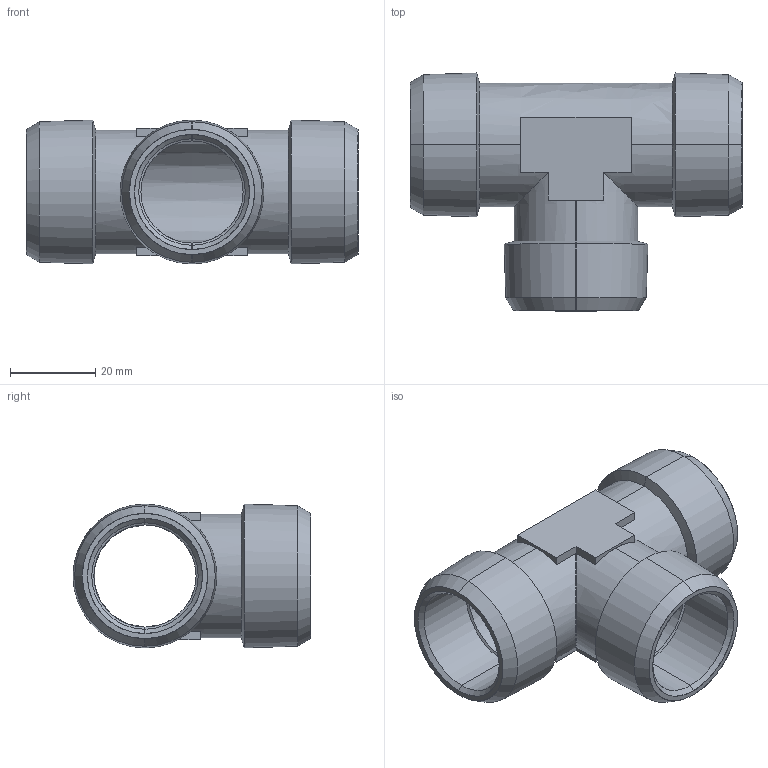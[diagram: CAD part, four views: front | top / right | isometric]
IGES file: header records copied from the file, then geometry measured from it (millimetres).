
Start section: SolidWorks IGES file using analytic representation for surfaces
Global section: file name: K:\Disegni Esecutivi\Accessori\4010\0401000010900.IGS; native system: SolidWorks 2007; preprocessor: SolidWorks 2007; author: cad02; date: 071023.114750; units: millimetre
Bounding box: 78 x 55.89 x 33.79 mm (x, y, z)
Surface area: 18835.5 mm2 (no closed solid volume)
Topology: 0 solids, 0 shells, 67 faces, 756 edges, 756 vertices
Faces by surface type: revolution 46, bspline 21
